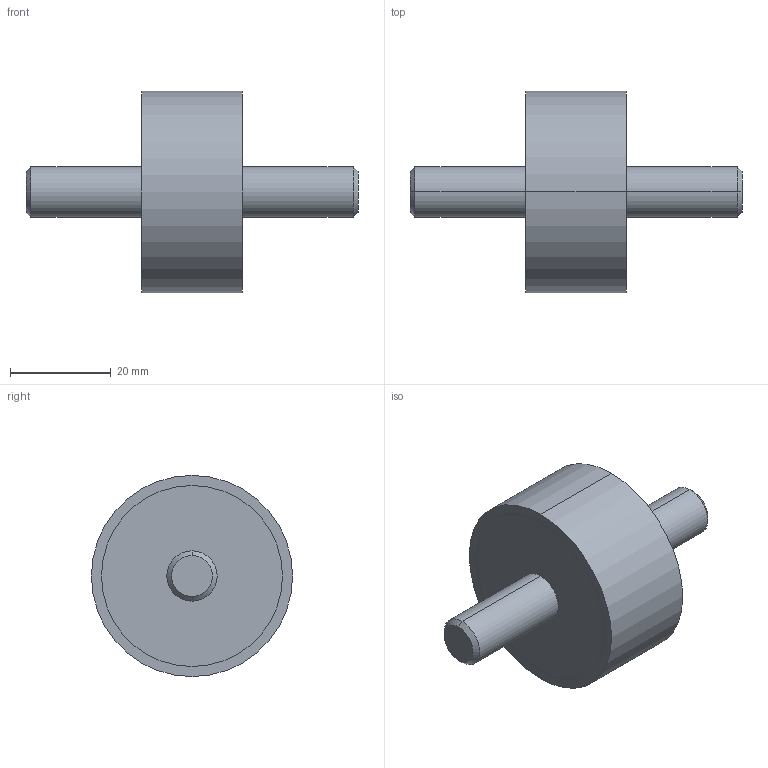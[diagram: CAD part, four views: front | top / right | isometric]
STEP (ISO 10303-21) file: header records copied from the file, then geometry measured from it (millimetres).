
FILE_DESCRIPTION (( 'STEP AP214' ), '1' );
FILE_NAME ('351-40-20-M10-SS-40.step', '2025-07-23T10:01:53', ( '' ), ( '' ), 'SwSTEP 2.0', 'SolidWorks 2022', '' );
FILE_SCHEMA (( 'AUTOMOTIVE_DESIGN' ));
Length unit declared in the file: millimetre
Products named in the file (1): 351-40-20-M10-SS-40
Bounding box: 66 x 40 x 40 mm (x, y, z)
Volume: 28700.2 mm3; surface area: 6437.3 mm2
Topology: 1 solids, 1 shells, 20 faces, 38 edges, 24 vertices
Faces by surface type: cylinder 10, plane 6, cone 4
Entity records: 636 total; most frequent: DIRECTION 104, CARTESIAN_POINT 83, ORIENTED_EDGE 76, AXIS2_PLACEMENT_3D 45, EDGE_CURVE 38, CIRCLE 24, VERTEX_POINT 24, EDGE_LOOP 24
